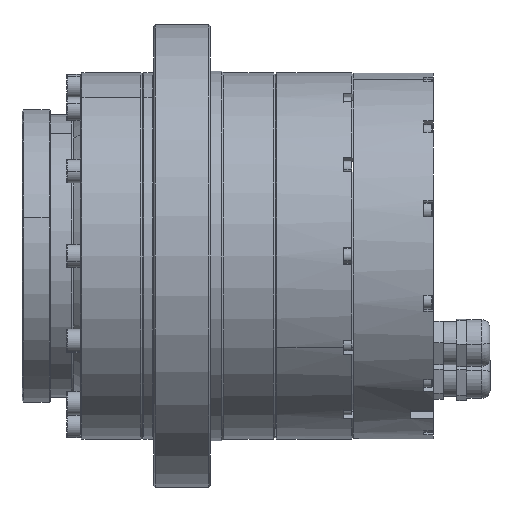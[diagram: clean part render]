
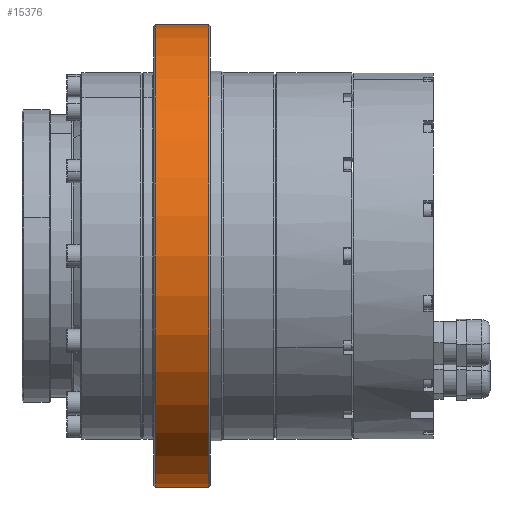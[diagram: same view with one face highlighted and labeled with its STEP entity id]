
A CAD part, front view. The second image highlights one B-rep face of the part: STEP entity #15376.
In plain terms, the highlighted cylindrical face has radius 69.5 mm (diameter 139 mm), a partial arc.
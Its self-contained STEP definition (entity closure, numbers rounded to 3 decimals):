
#898 = DIRECTION ( 'NONE',  ( 0., 0., 1. ) ) ;
#1311 = ORIENTED_EDGE ( 'NONE', *, *, #11751, .T. ) ;
#1404 = EDGE_CURVE ( 'NONE', #22480, #23409, #12755, .T. ) ;
#2151 = CARTESIAN_POINT ( 'NONE',  ( 2.5, 0., 69.5 ) ) ;
#2372 = FACE_OUTER_BOUND ( 'NONE', #12708, .T. ) ;
#2741 = VECTOR ( 'NONE', #30646, 1000. ) ;
#4227 = EDGE_CURVE ( 'NONE', #22480, #21836, #11515, .T. ) ;
#5104 = AXIS2_PLACEMENT_3D ( 'NONE', #28286, #16205, #30836 ) ;
#5607 = CARTESIAN_POINT ( 'NONE',  ( 2.5, 0., -69.5 ) ) ;
#6043 = CARTESIAN_POINT ( 'NONE',  ( 19., 0., -69.5 ) ) ;
#8166 = ORIENTED_EDGE ( 'NONE', *, *, #4227, .F. ) ;
#8731 = ORIENTED_EDGE ( 'NONE', *, *, #1404, .T. ) ;
#8807 = CARTESIAN_POINT ( 'NONE',  ( 19., 0., 69.5 ) ) ;
#8876 = ORIENTED_EDGE ( 'NONE', *, *, #13416, .T. ) ;
#9105 = CARTESIAN_POINT ( 'NONE',  ( 18.5, 0., -69.5 ) ) ;
#9871 = VERTEX_POINT ( 'NONE', #2151 ) ;
#10193 = AXIS2_PLACEMENT_3D ( 'NONE', #10596, #27669, #13051 ) ;
#10596 = CARTESIAN_POINT ( 'NONE',  ( 2.5, 0., 0. ) ) ;
#11154 = DIRECTION ( 'NONE',  ( -1., 0., 0. ) ) ;
#11515 = LINE ( 'NONE', #6043, #2741 ) ;
#11751 = EDGE_CURVE ( 'NONE', #23409, #9871, #15864, .T. ) ;
#12708 = EDGE_LOOP ( 'NONE', ( #8166, #8731, #1311, #8876 ) ) ;
#12755 = CIRCLE ( 'NONE', #5104, 69.5 ) ;
#13051 = DIRECTION ( 'NONE',  ( 0., 0., 1. ) ) ;
#13416 = EDGE_CURVE ( 'NONE', #9871, #21836, #23114, .T. ) ;
#15376 = ADVANCED_FACE ( 'NONE', ( #2372 ), #16827, .T. ) ;
#15864 = LINE ( 'NONE', #8807, #30014 ) ;
#16205 = DIRECTION ( 'NONE',  ( -1., 0., 0. ) ) ;
#16261 = AXIS2_PLACEMENT_3D ( 'NONE', #20314, #21072, #898 ) ;
#16827 = CYLINDRICAL_SURFACE ( 'NONE', #16261, 69.5 ) ;
#20314 = CARTESIAN_POINT ( 'NONE',  ( 19., 0., 0. ) ) ;
#21072 = DIRECTION ( 'NONE',  ( -1., 0., 0. ) ) ;
#21836 = VERTEX_POINT ( 'NONE', #5607 ) ;
#22480 = VERTEX_POINT ( 'NONE', #9105 ) ;
#23114 = CIRCLE ( 'NONE', #10193, 69.5 ) ;
#23409 = VERTEX_POINT ( 'NONE', #27878 ) ;
#27669 = DIRECTION ( 'NONE',  ( 1., 0., 0. ) ) ;
#27878 = CARTESIAN_POINT ( 'NONE',  ( 18.5, 0., 69.5 ) ) ;
#28286 = CARTESIAN_POINT ( 'NONE',  ( 18.5, 0., 0. ) ) ;
#30014 = VECTOR ( 'NONE', #11154, 1000. ) ;
#30646 = DIRECTION ( 'NONE',  ( -1., 0., 0. ) ) ;
#30836 = DIRECTION ( 'NONE',  ( 0., 0., 1. ) ) ;
